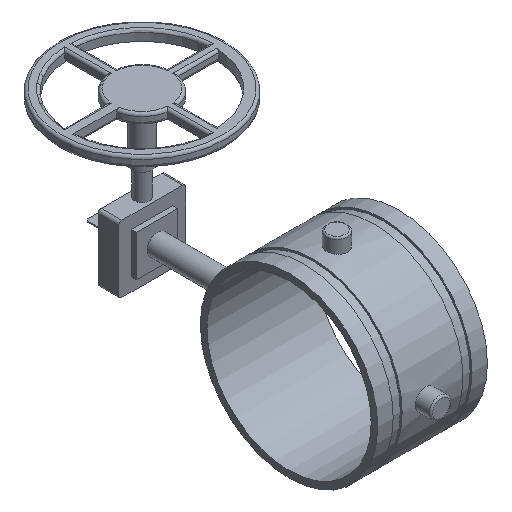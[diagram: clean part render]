
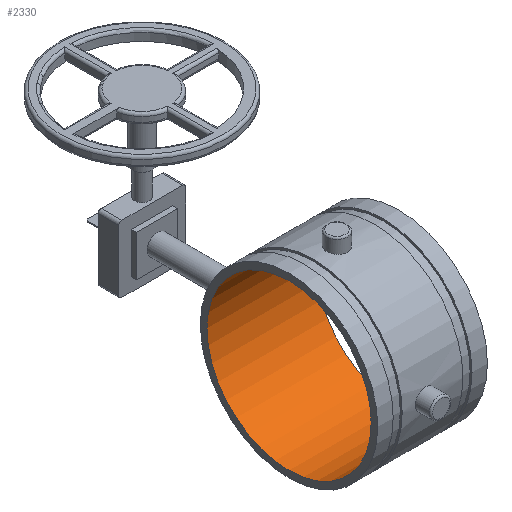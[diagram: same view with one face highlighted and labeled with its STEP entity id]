
A CAD part, isometric view. The second image highlights one B-rep face of the part: STEP entity #2330.
In plain terms, the highlighted cylindrical face has radius 101.359 mm (diameter 202.717 mm), a full revolution.
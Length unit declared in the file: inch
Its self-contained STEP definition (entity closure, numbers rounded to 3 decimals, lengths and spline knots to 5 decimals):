
#80=CYLINDRICAL_SURFACE('',#2555,3.9905);
#193=CIRCLE('',#2553,3.9905);
#194=CIRCLE('',#2554,3.9905);
#195=CIRCLE('',#2556,3.9905);
#196=CIRCLE('',#2557,3.9905);
#366=FACE_OUTER_BOUND('',#506,.T.);
#506=EDGE_LOOP('',(#1922,#1923,#1924,#1925,#1926,#1927));
#682=LINE('',#4300,#861);
#861=VECTOR('',#3125,3.9905);
#1071=VERTEX_POINT('',#4294);
#1072=VERTEX_POINT('',#4295);
#1073=VERTEX_POINT('',#4299);
#1074=VERTEX_POINT('',#4301);
#1370=EDGE_CURVE('',#1071,#1072,#193,.T.);
#1371=EDGE_CURVE('',#1072,#1071,#194,.T.);
#1372=EDGE_CURVE('',#1072,#1073,#682,.T.);
#1373=EDGE_CURVE('',#1074,#1073,#195,.T.);
#1374=EDGE_CURVE('',#1073,#1074,#196,.T.);
#1922=ORIENTED_EDGE('',*,*,#1370,.T.);
#1923=ORIENTED_EDGE('',*,*,#1372,.T.);
#1924=ORIENTED_EDGE('',*,*,#1373,.F.);
#1925=ORIENTED_EDGE('',*,*,#1374,.F.);
#1926=ORIENTED_EDGE('',*,*,#1372,.F.);
#1927=ORIENTED_EDGE('',*,*,#1371,.T.);
#2330=ADVANCED_FACE('',(#366),#80,.F.);
#2553=AXIS2_PLACEMENT_3D('',#4296,#3119,#3120);
#2554=AXIS2_PLACEMENT_3D('',#4297,#3121,#3122);
#2555=AXIS2_PLACEMENT_3D('',#4298,#3123,#3124);
#2556=AXIS2_PLACEMENT_3D('',#4302,#3126,#3127);
#2557=AXIS2_PLACEMENT_3D('',#4303,#3128,#3129);
#3119=DIRECTION('center_axis',(1.,0.,0.));
#3120=DIRECTION('ref_axis',(0.,0.,1.));
#3121=DIRECTION('center_axis',(1.,0.,0.));
#3122=DIRECTION('ref_axis',(0.,0.,1.));
#3123=DIRECTION('center_axis',(1.,0.,0.));
#3124=DIRECTION('ref_axis',(0.,1.,0.));
#3125=DIRECTION('',(-1.,0.,0.));
#3126=DIRECTION('center_axis',(1.,0.,0.));
#3127=DIRECTION('ref_axis',(0.,0.,1.));
#3128=DIRECTION('center_axis',(1.,0.,0.));
#3129=DIRECTION('ref_axis',(0.,0.,1.));
#4294=CARTESIAN_POINT('',(2.665,0.,3.9905));
#4295=CARTESIAN_POINT('',(2.665,-3.9905,0.));
#4296=CARTESIAN_POINT('Origin',(2.665,0.,0.));
#4297=CARTESIAN_POINT('Origin',(2.665,0.,0.));
#4298=CARTESIAN_POINT('Origin',(0.,0.,
0.));
#4299=CARTESIAN_POINT('',(-2.665,-3.9905,0.));
#4300=CARTESIAN_POINT('',(0.,-3.9905,0.));
#4301=CARTESIAN_POINT('',(-2.665,3.9905,0.));
#4302=CARTESIAN_POINT('Origin',(-2.665,0.,0.));
#4303=CARTESIAN_POINT('Origin',(-2.665,0.,0.));
